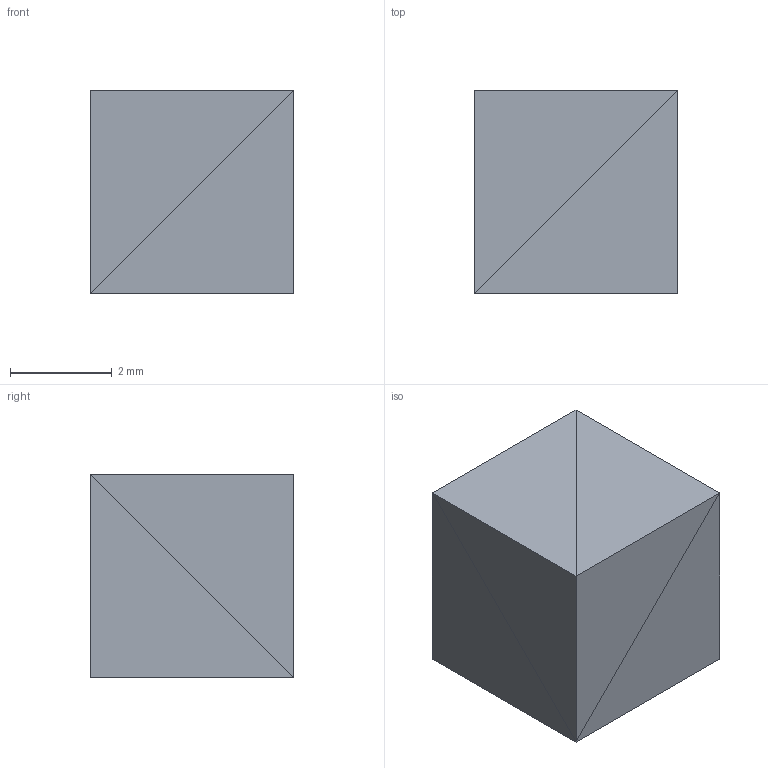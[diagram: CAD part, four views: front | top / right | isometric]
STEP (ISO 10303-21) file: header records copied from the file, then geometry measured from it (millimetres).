
FILE_DESCRIPTION(('Open CASCADE Model'),'2;1');
FILE_NAME('Open CASCADE Shape Model','2026-09-20T04:40:22',('Author'),( 'Open CASCADE'),'Open CASCADE STEP processor 8.0','Open CASCADE 8.0' ,'Unknown');
FILE_SCHEMA(('AP242_MANAGED_MODEL_BASED_3D_ENGINEERING_MIM_LF {1 0 10303 442 1 1 4 }' ));
Length unit declared in the file: millimetre
Products named in the file (1): Open CASCADE STEP translator 8.0 13
Bounding box: 4 x 4 x 4 mm (x, y, z)
Volume: 64 mm3; surface area: 96 mm2
Topology: 1 solids, 1 shells, 12 faces, 18 edges, 8 vertices
Faces by surface type: plane 12
Entity records: 490 total; most frequent: DIRECTION 80, CARTESIAN_POINT 75, LINE 54, VECTOR 54, ORIENTED_EDGE 36, PCURVE 36, DEFINITIONAL_REPRESENTATION 36, EDGE_CURVE 18
